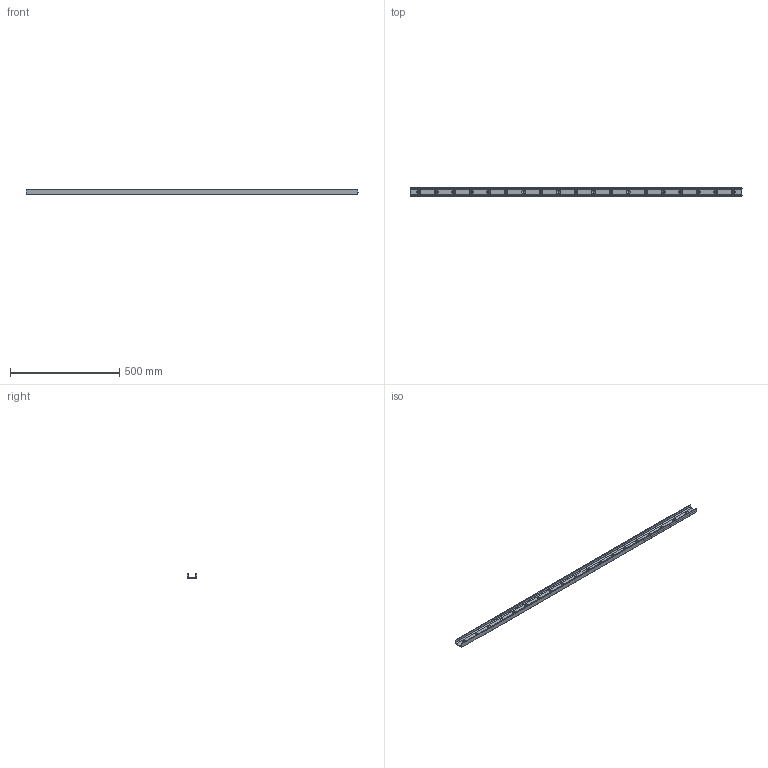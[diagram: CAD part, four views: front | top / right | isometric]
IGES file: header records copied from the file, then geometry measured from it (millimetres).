
Start section: SolidWorks IGES file using analytic representation for surfaces
Global section: file name: C:\Users\IanO\Desktop\43\L1943.ULV43_v2_20180121_IGES\L1943.ULV43-1520.igs; native system: SolidWorks 2017; preprocessor: SolidWorks 2017; author: IanO; date: 190121.090110; units: millimetre
Bounding box: 1520 x 43 x 21 mm (x, y, z)
Surface area: 236156 mm2 (no closed solid volume)
Topology: 0 solids, 0 shells, 102 faces, 1814 edges, 1814 vertices
Faces by surface type: revolution 89, bspline 13
